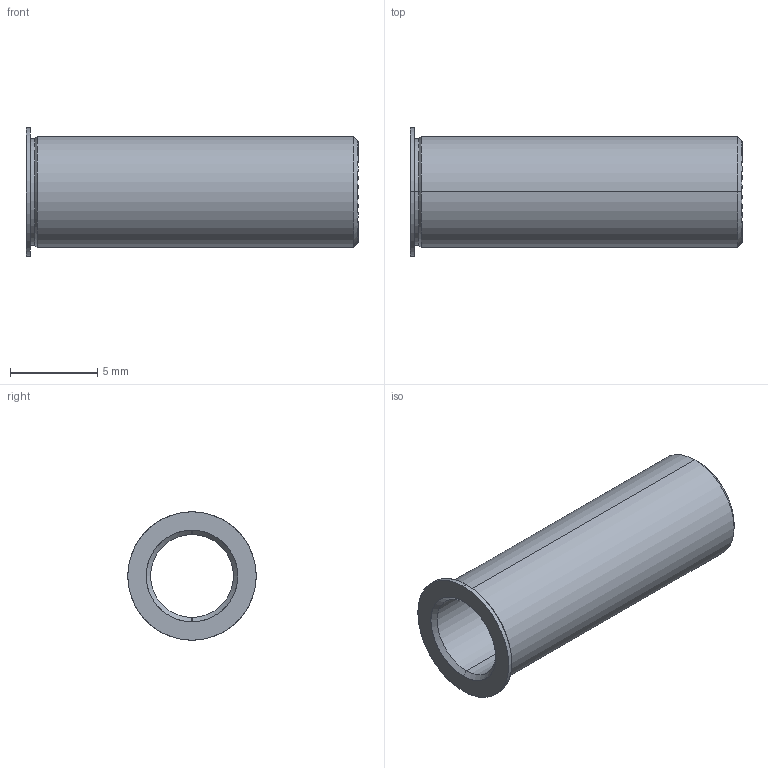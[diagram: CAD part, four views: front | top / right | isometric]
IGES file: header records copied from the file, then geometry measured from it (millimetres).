
Start section: SolidWorks IGES file using analytic representation for surfaces
Global section: file name: C:\Users\workpc\Desktop\KMA Solidworks\Imperial Bushings\Imperial Bushings IGES\TB187-100-750-S.IGS; native system: SolidWorks 2013; preprocessor: SolidWorks 2013; author: workpc; date: 130812.152458; units: inch
Bounding box: 19.05 x 7.37 x 7.37 mm (x, y, z)
Surface area: 711.6 mm2 (no closed solid volume)
Topology: 0 solids, 0 shells, 19 faces, 256 edges, 256 vertices
Faces by surface type: revolution 16, bspline 3
